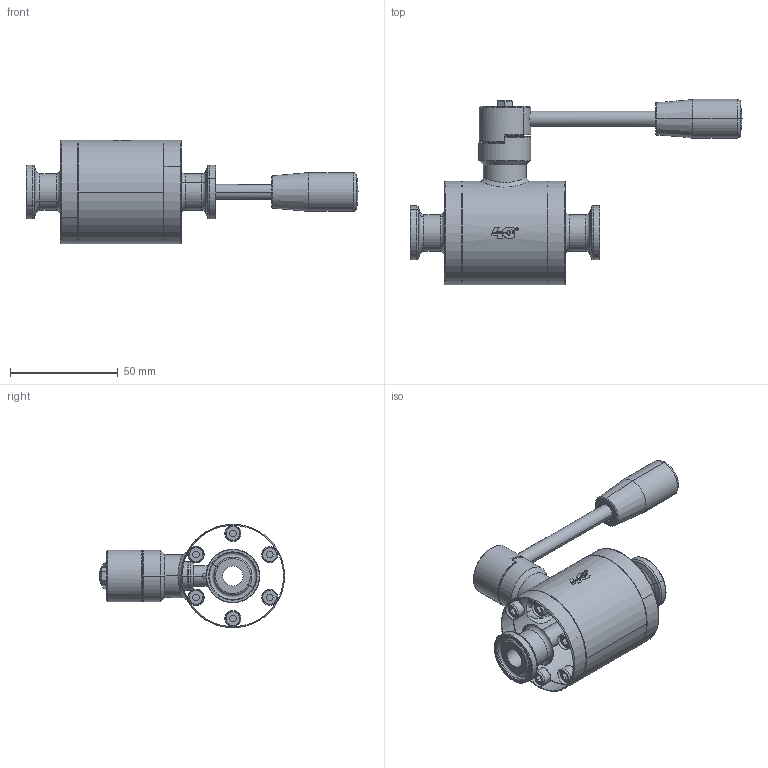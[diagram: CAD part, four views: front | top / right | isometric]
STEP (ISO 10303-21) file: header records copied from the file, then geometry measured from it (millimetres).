
FILE_DESCRIPTION((''),'2;1');
FILE_NAME('110130B61210_SW0001','2026-07-27T07:53:31',('tecnico2'),('CDM Tecnoconsulting'),'CREO PARAMETRIC BY PTC INC, 2024063','CREO PARAMETRIC BY PTC INC, 2024063','');
FILE_SCHEMA(('CONFIG_CONTROL_DESIGN','SHAPE_APPEARANCE_LAYERS_GROUPS'));
Length unit declared in the file: millimetre
Products named in the file (1): 110130B61210_SW0001
Bounding box: 154 x 85.95 x 48 mm (x, y, z)
Volume: 126599.6 mm3; surface area: 34963.7 mm2
Topology: 1 solids, 1 shells, 967 faces, 2522 edges, 1596 vertices
Faces by surface type: plane 417, cylinder 187, extrusion 150, cone 105, torus 56, bspline 42, sphere 10
Entity records: 55819 total; most frequent: CARTESIAN_POINT 20829, ORIENTED_EDGE 5004, DIRECTION 4213, PRESENTATION_STYLE_ASSIGNMENT 3242, STYLED_ITEM 2653, CURVE_STYLE 2652, EDGE_CURVE 2502, VERTEX_POINT 1596
